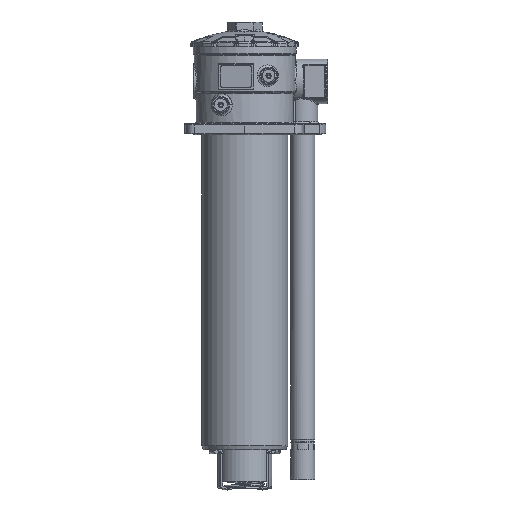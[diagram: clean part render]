
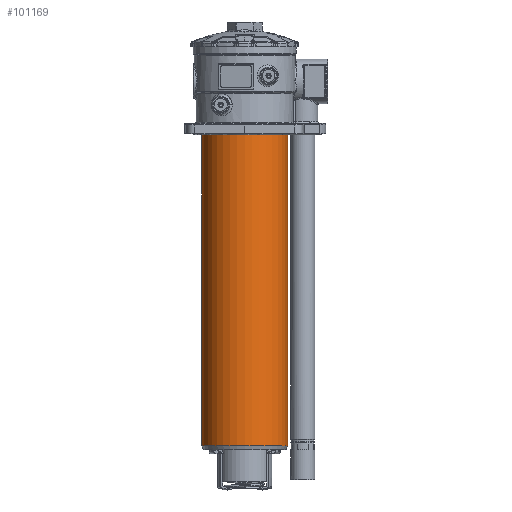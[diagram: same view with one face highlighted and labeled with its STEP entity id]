
A CAD part, left-side view. The second image highlights one B-rep face of the part: STEP entity #101169.
In plain terms, the highlighted cylindrical face has radius 50.25 mm (diameter 100.5 mm), a partial arc.
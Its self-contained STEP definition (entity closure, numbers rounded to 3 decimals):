
#16101=CARTESIAN_POINT('',(0.,0.,0.));
#16102=DIRECTION('',(0.,0.,-1.));
#16103=DIRECTION('',(0.,-1.,0.));
#16104=AXIS2_PLACEMENT_3D('',#16101,#16102,#16103);
#44227=DIRECTION('',(0.,0.,-1.));
#44228=VECTOR('',#44227,365.1);
#44229=CARTESIAN_POINT('',(0.,50.25,0.));
#44230=LINE('',#44229,#44228);
#44234=DIRECTION('',(0.,0.,-1.));
#44235=VECTOR('',#44234,365.1);
#44236=CARTESIAN_POINT('',(0.,-50.25,0.));
#44237=LINE('',#44236,#44235);
#44423=CARTESIAN_POINT('',(0.,0.,-365.1));
#44424=DIRECTION('',(0.,0.,1.));
#44425=DIRECTION('',(0.,1.,0.));
#44426=AXIS2_PLACEMENT_3D('',#44423,#44424,#44425);
#53832=CARTESIAN_POINT('',(0.,-50.25,-365.1));
#53834=VERTEX_POINT('',#53832);
#53836=CARTESIAN_POINT('',(0.,50.25,-365.1));
#53838=VERTEX_POINT('',#53836);
#53864=CARTESIAN_POINT('',(0.,-50.25,0.));
#53865=CARTESIAN_POINT('',(0.,50.25,0.));
#53866=VERTEX_POINT('',#53864);
#53867=VERTEX_POINT('',#53865);
#101155=CARTESIAN_POINT('',(0.,0.,
-183.037));
#101156=DIRECTION('',(0.,0.,-1.));
#101157=DIRECTION('',(0.,-1.,0.));
#101158=AXIS2_PLACEMENT_3D('',#101155,#101156,#101157);
#101159=CYLINDRICAL_SURFACE('',#101158,50.25);
#101160=ORIENTED_EDGE('',*,*,#71776,.F.);
#101162=ORIENTED_EDGE('',*,*,#101161,.T.);
#101164=ORIENTED_EDGE('',*,*,#101163,.F.);
#101166=ORIENTED_EDGE('',*,*,#101165,.F.);
#101167=EDGE_LOOP('',(#101160,#101162,#101164,#101166));
#101168=FACE_OUTER_BOUND('',#101167,.F.);
#16105=CIRCLE('',#16104,50.25);
#44427=CIRCLE('',#44426,50.25);
#71776=EDGE_CURVE('',#53866,#53867,#16105,.T.);
#101161=EDGE_CURVE('',#53866,#53834,#44237,.T.);
#101163=EDGE_CURVE('',#53838,#53834,#44427,.T.);
#101165=EDGE_CURVE('',#53867,#53838,#44230,.T.);
#101169=ADVANCED_FACE('',(#101168),#101159,.T.);
